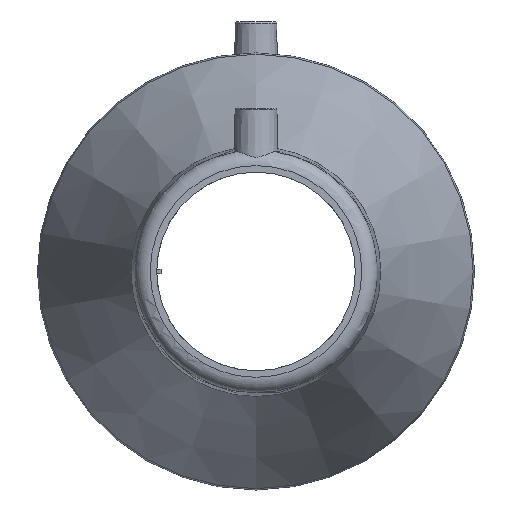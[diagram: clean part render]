
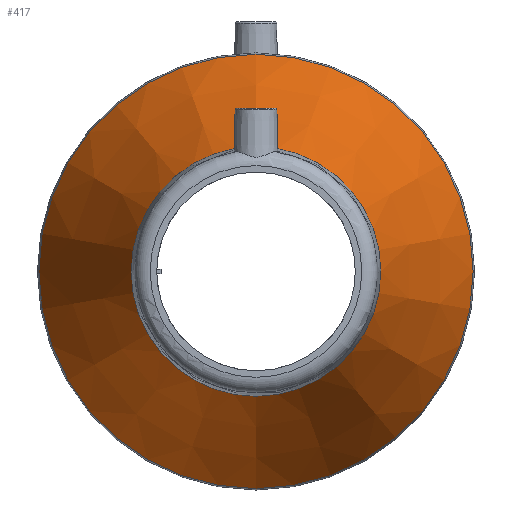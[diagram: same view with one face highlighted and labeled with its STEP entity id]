
A CAD part, left-side view. The second image highlights one B-rep face of the part: STEP entity #417.
In plain terms, the highlighted conical face has half-angle 24.329 degrees and reference radius 99 mm.
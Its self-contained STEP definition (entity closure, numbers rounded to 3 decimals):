
#77=CIRCLE('',#474,56.5);
#78=CIRCLE('',#475,98.378);
#114=ORIENTED_EDGE('',*,*,#204,.F.);
#115=ORIENTED_EDGE('',*,*,#205,.T.);
#204=EDGE_CURVE('',#249,#249,#77,.T.);
#205=EDGE_CURVE('',#250,#250,#78,.T.);
#249=VERTEX_POINT('',#732);
#250=VERTEX_POINT('',#734);
#290=EDGE_LOOP('',(#114));
#291=EDGE_LOOP('',(#115));
#353=FACE_BOUND('',#290,.T.);
#354=FACE_BOUND('',#291,.T.);
#408=CONICAL_SURFACE('',#473,99.,0.425);
#417=ADVANCED_FACE('',(#353,#354),#408,.T.);
#473=AXIS2_PLACEMENT_3D('',#730,#553,#554);
#474=AXIS2_PLACEMENT_3D('',#731,#555,#556);
#475=AXIS2_PLACEMENT_3D('',#733,#557,#558);
#553=DIRECTION('',(1.,0.,0.));
#554=DIRECTION('',(0.,0.,-1.));
#555=DIRECTION('',(-1.,0.,0.));
#556=DIRECTION('',(0.,0.,1.));
#557=DIRECTION('',(-1.,0.,0.));
#558=DIRECTION('',(0.,0.,1.));
#730=CARTESIAN_POINT('',(47.,0.,0.));
#731=CARTESIAN_POINT('',(-47.,0.,0.));
#732=CARTESIAN_POINT('',(-47.,0.,56.5));
#733=CARTESIAN_POINT('',(45.625,0.,0.));
#734=CARTESIAN_POINT('',(45.625,0.,98.378));
